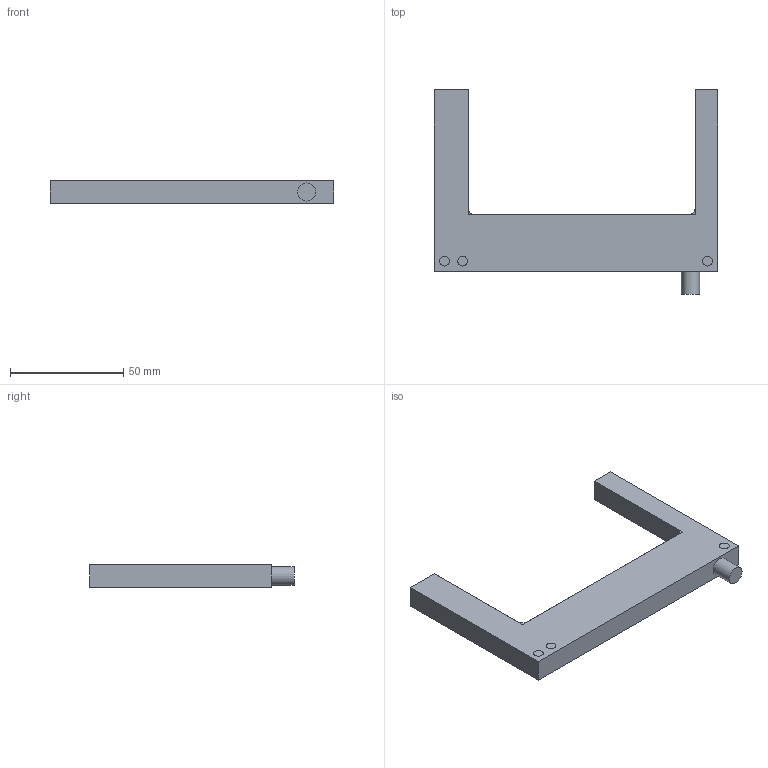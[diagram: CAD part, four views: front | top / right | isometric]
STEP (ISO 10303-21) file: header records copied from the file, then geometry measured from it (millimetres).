
FILE_DESCRIPTION(('FreeCAD Model'),'2;1');
FILE_NAME('Open CASCADE Shape Model','2024-06-10T08:21:59',( 'Thomas Reinhold'),('Eickmann Elektronik GmbH&.Co'), 'Open CASCADE STEP processor 7.6','FreeCAD','Unknown');
FILE_SCHEMA(('AUTOMOTIVE_DESIGN { 1 0 10303 214 1 1 1 1 }'));
Length unit declared in the file: millimetre
Products named in the file (6): Unnamed; Körper; Pad; Fillet; Hole; Pad001
Assembly tree (5 placements, depth 2):
  Unnamed
    Körper
    Pad
    Fillet
    Hole
    Pad001
Bounding box: 125 x 90 x 10 mm (x, y, z)
Surface area: 72384.9 mm2
Topology: 5 solids, 5 shells, 71 faces, 177 edges, 118 vertices
Faces by surface type: plane 52, cylinder 19
Full cylindrical faces by diameter (mm): 4.3 x9, 8 x2
Entity records: 2289 total; most frequent: CARTESIAN_POINT 372, DIRECTION 369, ORIENTED_EDGE 354, EDGE_CURVE 177, LINE 139, VECTOR 139, VERTEX_POINT 118, AXIS2_PLACEMENT_3D 115
